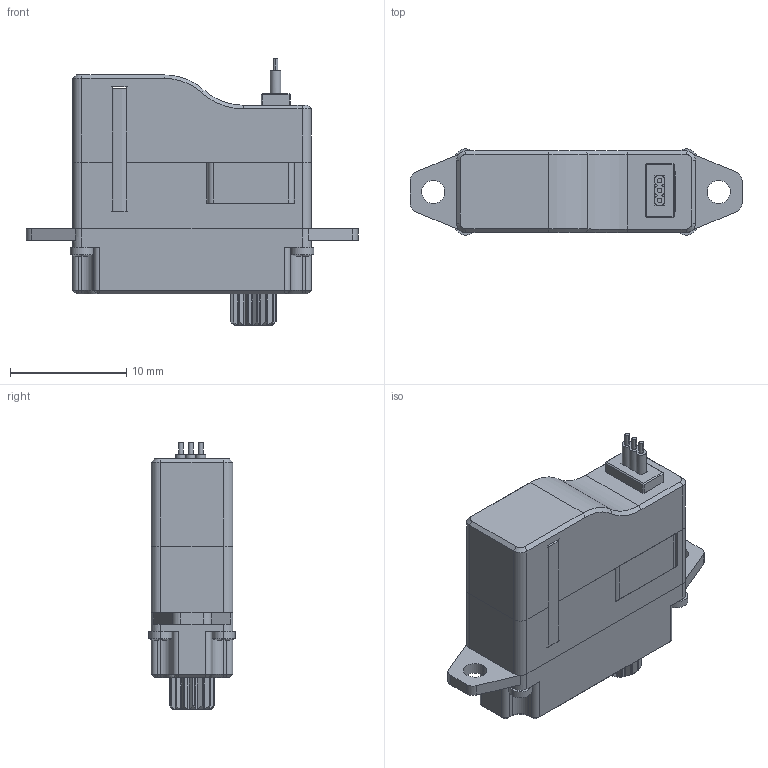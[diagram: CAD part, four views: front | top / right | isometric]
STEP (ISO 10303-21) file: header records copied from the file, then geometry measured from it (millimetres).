
FILE_DESCRIPTION (( 'STEP AP214' ), '1' );
FILE_NAME ('A06_DM_20221118.STEP', '2022-11-18T06:58:52', ( '微软用户' ), ( '微软中国' ), 'SwSTEP 2.0', 'SolidWorks 2016', '' );
FILE_SCHEMA (( 'AUTOMOTIVE_DESIGN' ));
Length unit declared in the file: millimetre
Products named in the file (1): A06_DM_20221118
Bounding box: 28.5 x 7.4 x 22.9 mm (x, y, z)
Surface area: 2124.5 mm2 (no closed solid volume)
Topology: 0 solids, 16 shells, 349 faces, 1125 edges, 780 vertices
Faces by surface type: plane 184, cylinder 119, cone 38, sphere 8
Entity records: 16417 total; most frequent: CARTESIAN_POINT 2572, DIRECTION 2173, ORIENTED_EDGE 1947, EDGE_CURVE 1125, AXIS2_PLACEMENT_3D 793, VERTEX_POINT 780, LINE 587, VECTOR 587
